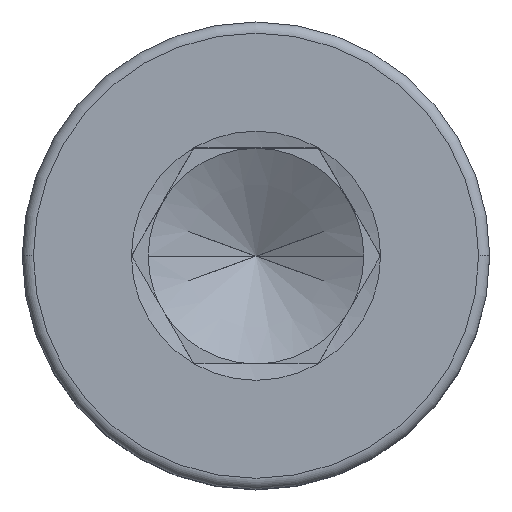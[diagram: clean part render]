
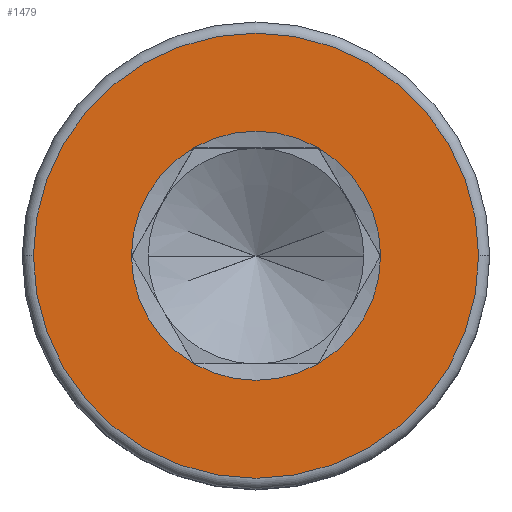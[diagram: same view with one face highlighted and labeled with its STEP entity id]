
A CAD part, top view. The second image highlights one B-rep face of the part: STEP entity #1479.
In plain terms, the highlighted planar face has unit normal (0, 0, 1).
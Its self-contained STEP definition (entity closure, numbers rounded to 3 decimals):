
#2 = VERTEX_POINT ( 'NONE', #690 ) ;
#15 = EDGE_CURVE ( 'NONE', #1156, #40, #186, .T. ) ;
#27 = EDGE_CURVE ( 'NONE', #40, #1156, #271, .T. ) ;
#40 = VERTEX_POINT ( 'NONE', #965 ) ;
#83 = EDGE_CURVE ( 'NONE', #788, #657, #1747, .T. ) ;
#84 = EDGE_LOOP ( 'NONE', ( #1452, #954 ) ) ;
#131 = AXIS2_PLACEMENT_3D ( 'NONE', #1362, #294, #1103 ) ;
#153 = PLANE ( 'NONE',  #1190 ) ;
#186 = CIRCLE ( 'NONE', #560, 6.19 ) ;
#210 = AXIS2_PLACEMENT_3D ( 'NONE', #1092, #1673, #1654 ) ;
#255 = EDGE_CURVE ( 'NONE', #1687, #2, #1337, .T. ) ;
#265 = CARTESIAN_POINT ( 'NONE',  ( 0., 0., 8. ) ) ;
#271 = CIRCLE ( 'NONE', #210, 6.19 ) ;
#280 = DIRECTION ( 'NONE',  ( 0., 0., 1. ) ) ;
#294 = DIRECTION ( 'NONE',  ( 0., 0., 1. ) ) ;
#297 = AXIS2_PLACEMENT_3D ( 'NONE', #719, #1547, #1681 ) ;
#315 = ORIENTED_EDGE ( 'NONE', *, *, #563, .F. ) ;
#343 = CARTESIAN_POINT ( 'NONE',  ( -1.732, -3., 8. ) ) ;
#345 = CARTESIAN_POINT ( 'NONE',  ( 1.732, -3., 8. ) ) ;
#392 = CIRCLE ( 'NONE', #1193, 3.464 ) ;
#440 = EDGE_CURVE ( 'NONE', #2, #788, #392, .T. ) ;
#447 = CIRCLE ( 'NONE', #964, 3.464 ) ;
#475 = CARTESIAN_POINT ( 'NONE',  ( -1.732, 3., 8. ) ) ;
#490 = CARTESIAN_POINT ( 'NONE',  ( 1.732, 3., 8. ) ) ;
#553 = CARTESIAN_POINT ( 'NONE',  ( 0., 0., 8. ) ) ;
#560 = AXIS2_PLACEMENT_3D ( 'NONE', #553, #280, #1501 ) ;
#563 = EDGE_CURVE ( 'NONE', #775, #1687, #447, .T. ) ;
#568 = ORIENTED_EDGE ( 'NONE', *, *, #1028, .F. ) ;
#576 = ORIENTED_EDGE ( 'NONE', *, *, #1494, .F. ) ;
#580 = DIRECTION ( 'NONE',  ( 1., 0., 0. ) ) ;
#657 = VERTEX_POINT ( 'NONE', #345 ) ;
#690 = CARTESIAN_POINT ( 'NONE',  ( -3.464, 0., 8. ) ) ;
#719 = CARTESIAN_POINT ( 'NONE',  ( 0., 0., 8. ) ) ;
#766 = EDGE_LOOP ( 'NONE', ( #576, #568, #1027, #923, #1483, #315 ) ) ;
#775 = VERTEX_POINT ( 'NONE', #490 ) ;
#788 = VERTEX_POINT ( 'NONE', #343 ) ;
#802 = CARTESIAN_POINT ( 'NONE',  ( 0., 0., 8. ) ) ;
#872 = DIRECTION ( 'NONE',  ( 0., 0., 1. ) ) ;
#876 = CIRCLE ( 'NONE', #1629, 3.464 ) ;
#887 = CARTESIAN_POINT ( 'NONE',  ( 0., 0., 8. ) ) ;
#923 = ORIENTED_EDGE ( 'NONE', *, *, #440, .F. ) ;
#954 = ORIENTED_EDGE ( 'NONE', *, *, #27, .T. ) ;
#964 = AXIS2_PLACEMENT_3D ( 'NONE', #887, #1470, #1165 ) ;
#965 = CARTESIAN_POINT ( 'NONE',  ( -6.19, 0., 8. ) ) ;
#996 = CARTESIAN_POINT ( 'NONE',  ( 0., 0., 8. ) ) ;
#1027 = ORIENTED_EDGE ( 'NONE', *, *, #83, .F. ) ;
#1028 = EDGE_CURVE ( 'NONE', #657, #1301, #1079, .T. ) ;
#1079 = CIRCLE ( 'NONE', #297, 3.464 ) ;
#1092 = CARTESIAN_POINT ( 'NONE',  ( 0., 0., 8. ) ) ;
#1103 = DIRECTION ( 'NONE',  ( 1., 0., 0. ) ) ;
#1142 = CARTESIAN_POINT ( 'NONE',  ( 0., 0., 8. ) ) ;
#1156 = VERTEX_POINT ( 'NONE', #1260 ) ;
#1165 = DIRECTION ( 'NONE',  ( 1., 0., 0. ) ) ;
#1187 = DIRECTION ( 'NONE',  ( 1., 0., 0. ) ) ;
#1190 = AXIS2_PLACEMENT_3D ( 'NONE', #802, #1237, #1210 ) ;
#1193 = AXIS2_PLACEMENT_3D ( 'NONE', #996, #1281, #580 ) ;
#1205 = FACE_BOUND ( 'NONE', #766, .T. ) ;
#1210 = DIRECTION ( 'NONE',  ( 1., 0., 0. ) ) ;
#1237 = DIRECTION ( 'NONE',  ( 0., 0., 1. ) ) ;
#1260 = CARTESIAN_POINT ( 'NONE',  ( 6.19, 0., 8. ) ) ;
#1281 = DIRECTION ( 'NONE',  ( 0., 0., 1. ) ) ;
#1301 = VERTEX_POINT ( 'NONE', #1433 ) ;
#1337 = CIRCLE ( 'NONE', #1597, 3.464 ) ;
#1351 = DIRECTION ( 'NONE',  ( 0., 0., 1. ) ) ;
#1362 = CARTESIAN_POINT ( 'NONE',  ( 0., 0., 8. ) ) ;
#1433 = CARTESIAN_POINT ( 'NONE',  ( 3.464, 0., 8. ) ) ;
#1452 = ORIENTED_EDGE ( 'NONE', *, *, #15, .T. ) ;
#1470 = DIRECTION ( 'NONE',  ( 0., 0., 1. ) ) ;
#1479 = ADVANCED_FACE ( 'NONE', ( #1786, #1205 ), #153, .T. ) ;
#1483 = ORIENTED_EDGE ( 'NONE', *, *, #255, .F. ) ;
#1494 = EDGE_CURVE ( 'NONE', #1301, #775, #876, .T. ) ;
#1501 = DIRECTION ( 'NONE',  ( 1., 0., 0. ) ) ;
#1547 = DIRECTION ( 'NONE',  ( 0., 0., 1. ) ) ;
#1597 = AXIS2_PLACEMENT_3D ( 'NONE', #1142, #872, #1187 ) ;
#1624 = DIRECTION ( 'NONE',  ( 1., 0., 0. ) ) ;
#1629 = AXIS2_PLACEMENT_3D ( 'NONE', #265, #1351, #1624 ) ;
#1654 = DIRECTION ( 'NONE',  ( 1., 0., 0. ) ) ;
#1673 = DIRECTION ( 'NONE',  ( 0., 0., 1. ) ) ;
#1681 = DIRECTION ( 'NONE',  ( 1., 0., 0. ) ) ;
#1687 = VERTEX_POINT ( 'NONE', #475 ) ;
#1747 = CIRCLE ( 'NONE', #131, 3.464 ) ;
#1786 = FACE_OUTER_BOUND ( 'NONE', #84, .T. ) ;
